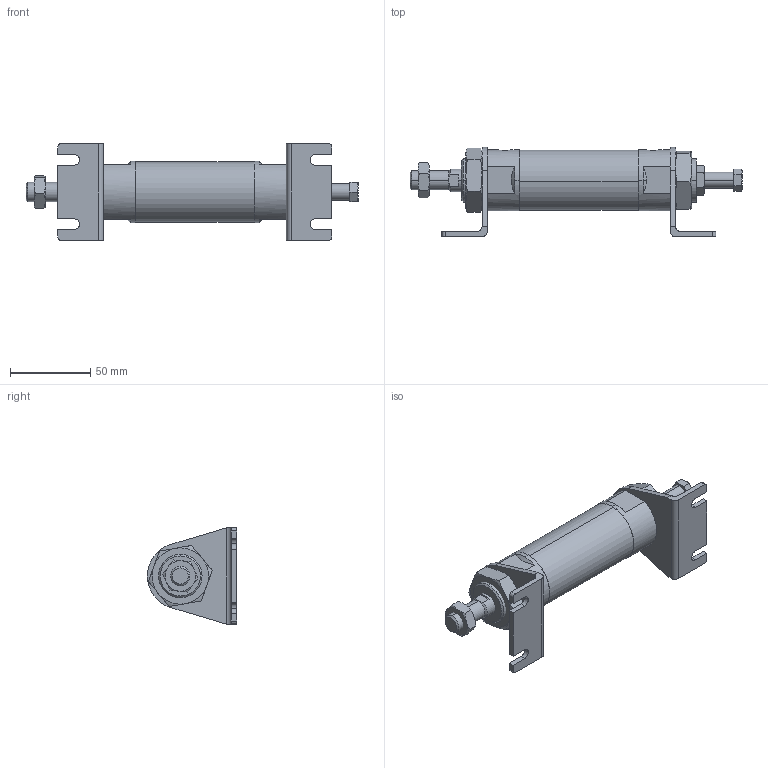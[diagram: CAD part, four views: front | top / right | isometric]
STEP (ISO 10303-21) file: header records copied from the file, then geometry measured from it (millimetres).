
FILE_DESCRIPTION (( 'STEP AP203' ), '1' );
FILE_NAME ('JGA2-32-25-L.STEP', '2016-04-20T05:08:04', ( '' ), ( '' ), 'SwSTEP 2.0', 'SolidWorks 2014', '' );
FILE_SCHEMA (( 'CONFIG_CONTROL_DESIGN' ));
Length unit declared in the file: millimetre
Products named in the file (7): JGA2-32-25-L; JGLH2-32B; J#2-32-L; 32-25; JGA2-32A; M12x1.25-7mm; M27x2-10mm
Assembly tree (8 placements, depth 2):
  JGA2-32-25-L
    JGLH2-32B
    32-25
    JGA2-32A
    M12x1.25-7mm
    J#2-32-L  x2
    M27x2-10mm  x2
Bounding box: 206.5 x 55.5 x 60 mm (x, y, z)
Volume: 182351.9 mm3; surface area: 48882.4 mm2
Topology: 8 solids, 8 shells, 200 faces, 468 edges, 288 vertices
Faces by surface type: plane 86, cylinder 50, torus 48, cone 16
Entity records: 5712 total; most frequent: CARTESIAN_POINT 1587, DIRECTION 701, ORIENTED_EDGE 686, EDGE_CURVE 343, AXIS2_PLACEMENT_3D 282, VERTEX_POINT 212, EDGE_LOOP 165, FACE_OUTER_BOUND 151
